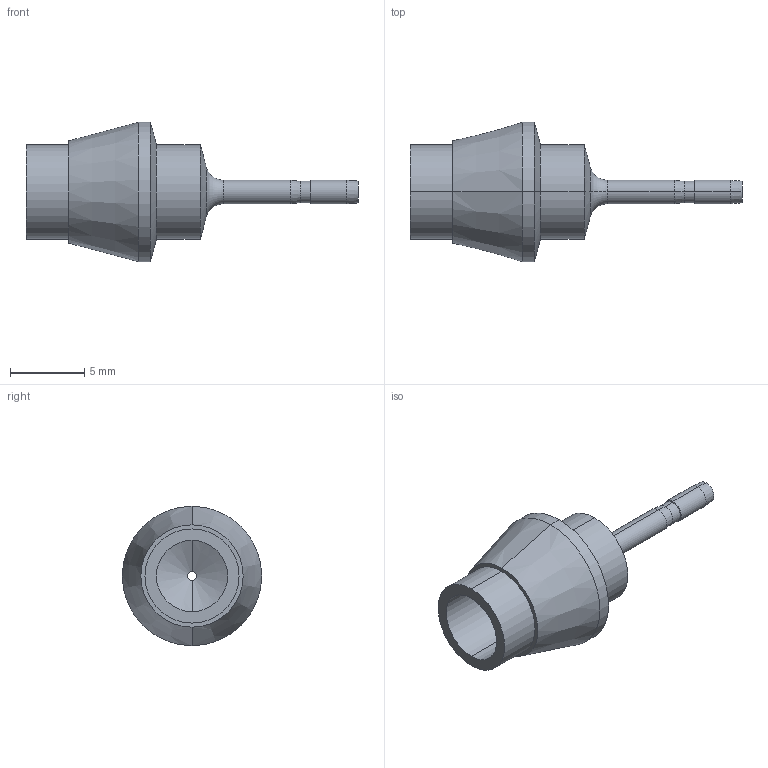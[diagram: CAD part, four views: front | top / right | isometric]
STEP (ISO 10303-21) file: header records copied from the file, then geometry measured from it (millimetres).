
FILE_DESCRIPTION (( 'STEP AP203' ), '1' );
FILE_NAME ('DPC04-01 SS.STEP', '2009-09-08T08:33:21', ( ' ' ), ( '' ), 'SwSTEP 2.0', 'SolidWorks 2008', '' );
FILE_SCHEMA (( 'CONFIG_CONTROL_DESIGN' ));
Length unit declared in the file: millimetre
Products named in the file (1): DPC04-01 SS
Bounding box: 22.4 x 9.4 x 9.4 mm (x, y, z)
Volume: 426.9 mm3; surface area: 536.9 mm2
Topology: 1 solids, 1 shells, 35 faces, 70 edges, 38 vertices
Faces by surface type: cylinder 16, cone 14, plane 3, torus 2
Entity records: 977 total; most frequent: DIRECTION 182, CARTESIAN_POINT 144, ORIENTED_EDGE 140, AXIS2_PLACEMENT_3D 76, EDGE_CURVE 70, CIRCLE 40, EDGE_LOOP 38, VERTEX_POINT 38
